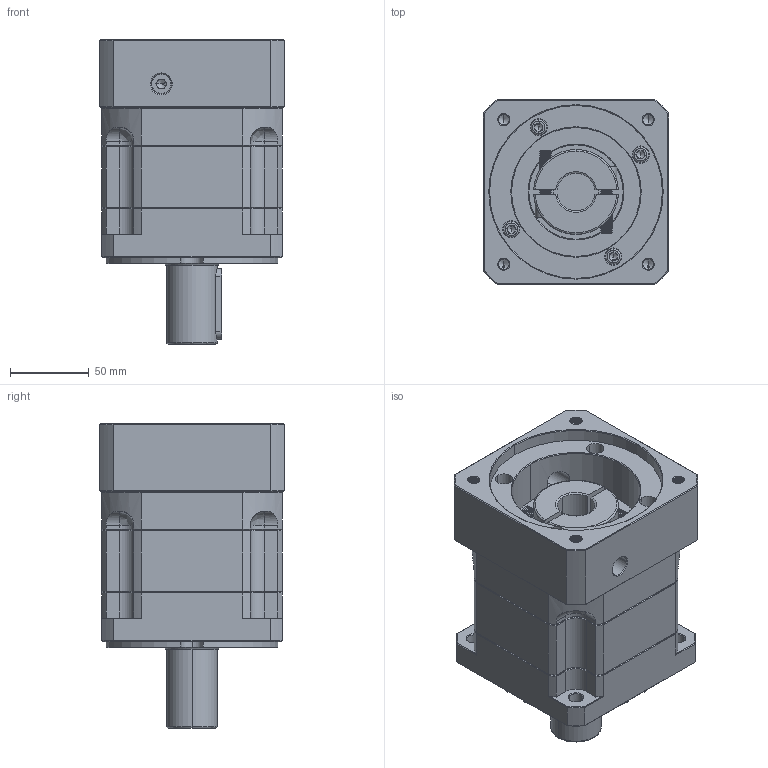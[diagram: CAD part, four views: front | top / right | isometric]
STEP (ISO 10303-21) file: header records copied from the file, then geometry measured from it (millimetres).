
FILE_DESCRIPTION (( 'STEP AP214' ), '1' );
FILE_NAME ('ZB115A-D32-L1-P2-24-110-130-M8.step', '2023-08-26T06:29:00', ( '' ), ( '' ), 'SwSTEP 2.0', 'SolidWorks 2016', '' );
FILE_SCHEMA (( 'AUTOMOTIVE_DESIGN' ));
Length unit declared in the file: millimetre
Products named in the file (1): ZB115A-D32-L1-P2-24-110-130-M8
Bounding box: 118 x 118 x 193.5 mm (x, y, z)
Volume: 1559946.8 mm3; surface area: 170584.1 mm2
Topology: 6 solids, 6 shells, 2396 faces, 6287 edges, 3991 vertices
Faces by surface type: plane 1144, cylinder 441, bspline 423, cone 368, torus 20
Entity records: 129476 total; most frequent: CARTESIAN_POINT 47676, ORIENTED_EDGE 12506, DIRECTION 9906, EDGE_CURVE 6253, VECTOR 3998, LINE 3998, VERTEX_POINT 3991, AXIS2_PLACEMENT_3D 2954
